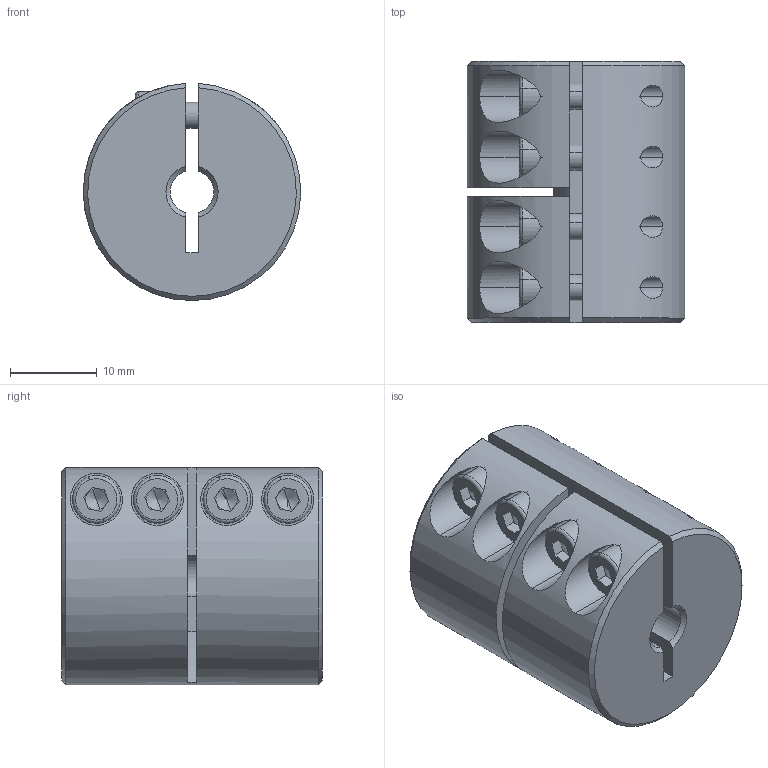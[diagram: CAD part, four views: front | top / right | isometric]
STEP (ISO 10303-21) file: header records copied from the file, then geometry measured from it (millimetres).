
FILE_DESCRIPTION (( 'STEP AP214' ), '1' );
FILE_NAME ('LL-B-D25L30-5-5 ½¨Ä£.STEP', '2022-07-21T03:00:56', ( '' ), ( '' ), 'SwSTEP 2.0', 'SolidWorks 2022', '' );
FILE_SCHEMA (( 'AUTOMOTIVE_DESIGN' ));
Length unit declared in the file: millimetre
Products named in the file (1): LL-B-D25L30-5-5 膘耀
Bounding box: 24.99 x 30 x 24.98 mm (x, y, z)
Volume: 12863.4 mm3; surface area: 5896.4 mm2
Topology: 1 solids, 1 shells, 162 faces, 412 edges, 260 vertices
Faces by surface type: plane 82, cylinder 57, cone 15, torus 8
Entity records: 5334 total; most frequent: CARTESIAN_POINT 1351, DIRECTION 850, ORIENTED_EDGE 808, EDGE_CURVE 404, AXIS2_PLACEMENT_3D 327, VERTEX_POINT 260, VECTOR 196, LINE 196
